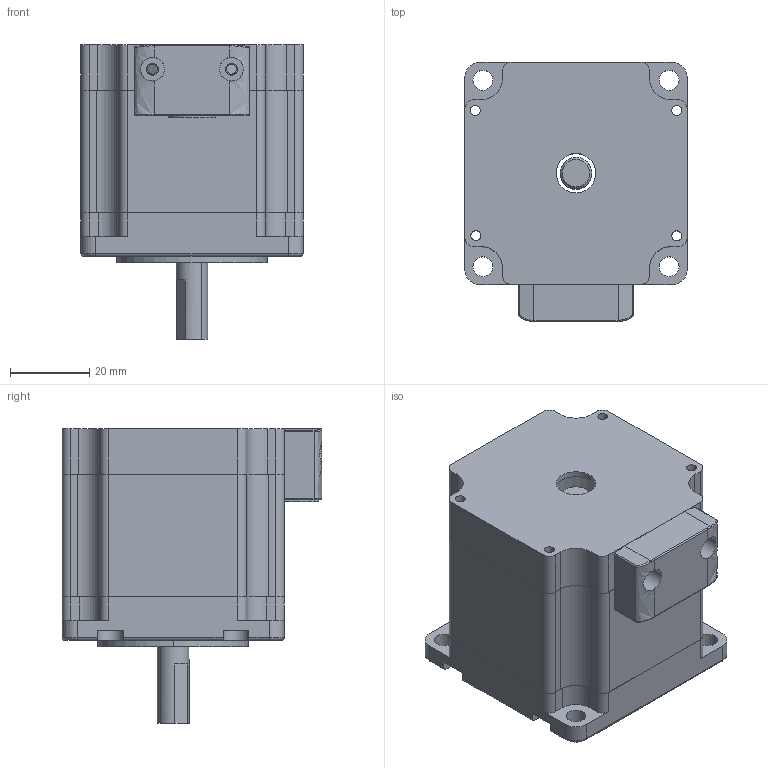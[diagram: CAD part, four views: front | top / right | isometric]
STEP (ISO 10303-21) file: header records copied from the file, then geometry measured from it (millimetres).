
FILE_DESCRIPTION (( 'STEP AP214' ), '1' );
FILE_NAME ('57CM13.STEP', '2024-12-13T07:26:44', ( 'MM' ), ( 'Microsoft' ), 'SwSTEP 2.0', 'SolidWorks 2020', '' );
FILE_SCHEMA (( 'AUTOMOTIVE_DESIGN' ));
Length unit declared in the file: millimetre
Products named in the file (7): 57 ヶ裔; 隅赽; 蛌赽郪璃; 57等謂揤盄輸; 57CM13; 57綴裔; 蛌粣
Assembly tree (6 placements, depth 3):
  57CM13
    57綴裔
    隅赽
    57 ヶ裔
    蛌赽郪璃
      蛌粣
    57等謂揤盄輸
Bounding box: 56.2 x 65.7 x 74.5 mm (x, y, z)
Volume: 79279.6 mm3; surface area: 53378.2 mm2
Topology: 5 solids, 5 shells, 516 faces, 1420 edges, 929 vertices
Faces by surface type: cylinder 303, plane 179, bspline 14, cone 12, torus 8
Entity records: 18334 total; most frequent: CARTESIAN_POINT 3871, DIRECTION 2993, ORIENTED_EDGE 2836, EDGE_CURVE 1418, AXIS2_PLACEMENT_3D 1131, VERTEX_POINT 929, LINE 731, VECTOR 731
